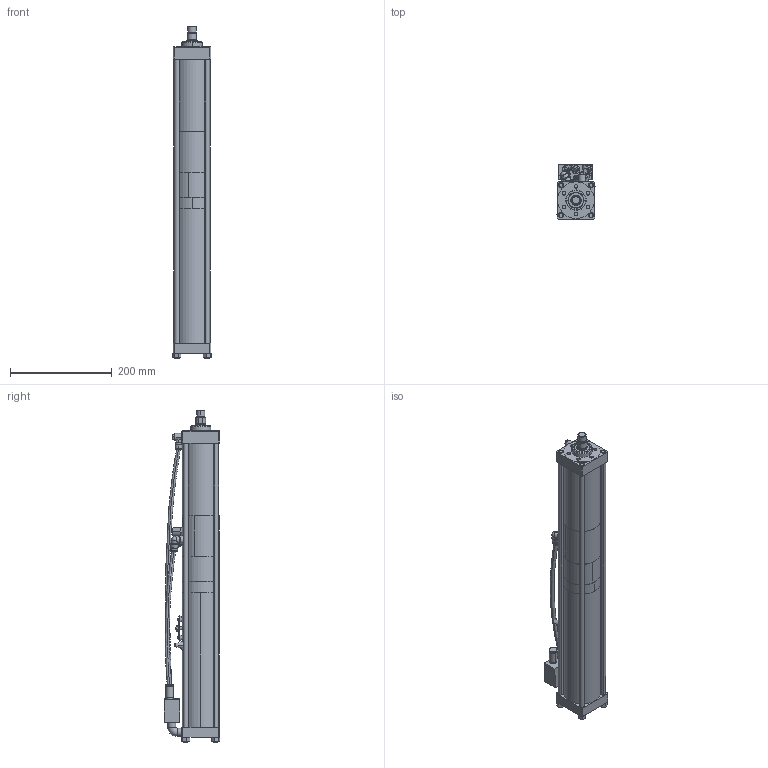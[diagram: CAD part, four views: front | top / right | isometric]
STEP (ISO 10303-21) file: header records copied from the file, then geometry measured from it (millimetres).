
FILE_DESCRIPTION (( 'STEP AP203' ), '1' );
FILE_NAME ('BS02-100-06S.step', '2025-07-31T09:39:23', ( 'Ranlm' ), ( '' ), 'SwSTEP 2.0', 'SolidWorks 2022', '' );
FILE_SCHEMA (( 'CONFIG_CONTROL_DESIGN' ));
Length unit declared in the file: millimetre
Products named in the file (1): BS02-100-06S
Bounding box: 74.72 x 108.86 x 652 mm (x, y, z)
Surface area: 310892.5 mm2 (no closed solid volume)
Topology: 0 solids, 40 shells, 453 faces, 1164 edges, 758 vertices
Faces by surface type: plane 203, cylinder 154, cone 64, torus 25, bspline 6, sphere 1
Entity records: 15189 total; most frequent: CARTESIAN_POINT 3894, DIRECTION 2516, ORIENTED_EDGE 2050, EDGE_CURVE 1158, AXIS2_PLACEMENT_3D 970, VERTEX_POINT 757, LINE 576, VECTOR 576
